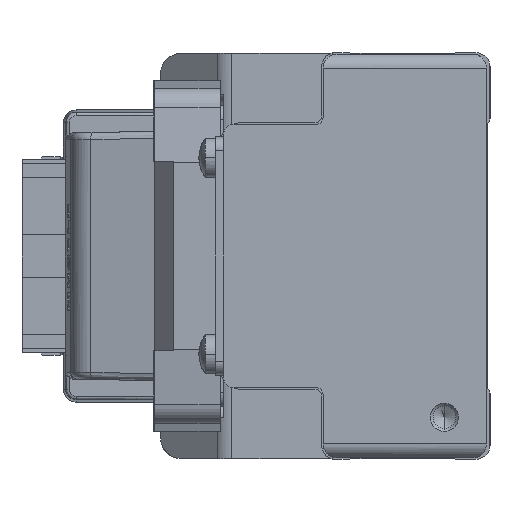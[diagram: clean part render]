
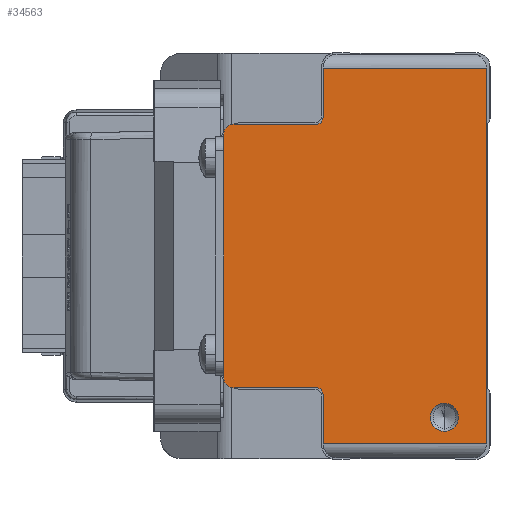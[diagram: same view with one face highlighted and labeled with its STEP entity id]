
A CAD part, left-side view. The second image highlights one B-rep face of the part: STEP entity #34563.
In plain terms, the highlighted planar face has unit normal (-1, 0, 0) as drawn and (0, 0, 1) by its records, which use the part's own axes.
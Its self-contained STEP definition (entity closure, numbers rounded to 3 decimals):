
#58 = CARTESIAN_POINT ( 'NONE',  ( -26.8, 0.5, 420. ) ) ;
#202 = CARTESIAN_POINT ( 'NONE',  ( -19.8, 23.8, 420. ) ) ;
#252 = LINE ( 'NONE', #443, #1602 ) ;
#443 = CARTESIAN_POINT ( 'NONE',  ( -19.8, 23.8, 420. ) ) ;
#474 = EDGE_CURVE ( 'NONE', #18160, #16892, #25079, .T. ) ;
#512 = VERTEX_POINT ( 'NONE', #9333 ) ;
#804 = DIRECTION ( 'NONE',  ( 0., 0., 1. ) ) ;
#1445 = DIRECTION ( 'NONE',  ( -1., 0., 0. ) ) ;
#1602 = VECTOR ( 'NONE', #20881, 1000. ) ;
#2162 = CARTESIAN_POINT ( 'NONE',  ( -21., 6.5, 420. ) ) ;
#2229 = VECTOR ( 'NONE', #41888, 1000. ) ;
#2465 = VECTOR ( 'NONE', #15988, 1000. ) ;
#2761 = CIRCLE ( 'NONE', #14101, 2. ) ;
#4384 = CARTESIAN_POINT ( 'NONE',  ( -25., 6.5, 420. ) ) ;
#4421 = VERTEX_POINT ( 'NONE', #24065 ) ;
#4689 = DIRECTION ( 'NONE',  ( 0., 0., 1. ) ) ;
#5040 = DIRECTION ( 'NONE',  ( 1., 0., 0. ) ) ;
#5096 = CARTESIAN_POINT ( 'NONE',  ( -26.8, 0.5, 420. ) ) ;
#5496 = DIRECTION ( 'NONE',  ( 0., 0., 1. ) ) ;
#6170 = ORIENTED_EDGE ( 'NONE', *, *, #19831, .T. ) ;
#6767 = CARTESIAN_POINT ( 'NONE',  ( 17.3, 36.5, 420. ) ) ;
#7025 = PLANE ( 'NONE',  #19929 ) ;
#7356 = EDGE_CURVE ( 'NONE', #21046, #24382, #17207, .T. ) ;
#7987 = EDGE_LOOP ( 'NONE', ( #20075, #43178, #40343, #25486, #23952, #19551, #6170, #34264, #17262, #34793, #23073, #29484 ) ) ;
#8158 = EDGE_CURVE ( 'NONE', #8332, #37024, #27337, .T. ) ;
#8245 = DIRECTION ( 'NONE',  ( 1., 0., 0. ) ) ;
#8252 = CIRCLE ( 'NONE', #28805, 1. ) ;
#8332 = VERTEX_POINT ( 'NONE', #15587 ) ;
#8461 = AXIS2_PLACEMENT_3D ( 'NONE', #41327, #10759, #1445 ) ;
#9090 = DIRECTION ( 'NONE',  ( 1., 0., 0. ) ) ;
#9333 = CARTESIAN_POINT ( 'NONE',  ( 19.8, 23.8, 420. ) ) ;
#10759 = DIRECTION ( 'NONE',  ( 0., 0., -1. ) ) ;
#11814 = CARTESIAN_POINT ( 'NONE',  ( -19.8, 24.8, 420. ) ) ;
#12032 = CIRCLE ( 'NONE', #8461, 2. ) ;
#12908 = LINE ( 'NONE', #5096, #21633 ) ;
#13626 = VERTEX_POINT ( 'NONE', #42083 ) ;
#13693 = CARTESIAN_POINT ( 'NONE',  ( -23., 6.5, 420. ) ) ;
#13825 = AXIS2_PLACEMENT_3D ( 'NONE', #40575, #26431, #37255 ) ;
#14095 = EDGE_CURVE ( 'NONE', #28418, #25607, #2761, .T. ) ;
#14101 = AXIS2_PLACEMENT_3D ( 'NONE', #13693, #33826, #20784 ) ;
#14166 = CARTESIAN_POINT ( 'NONE',  ( 26.8, 24., 420. ) ) ;
#14386 = LINE ( 'NONE', #21250, #41733 ) ;
#14715 = CIRCLE ( 'NONE', #16836, 1. ) ;
#14803 = AXIS2_PLACEMENT_3D ( 'NONE', #6767, #33798, #20316 ) ;
#15587 = CARTESIAN_POINT ( 'NONE',  ( 18.8, 24.8, 420. ) ) ;
#15988 = DIRECTION ( 'NONE',  ( 0., -1., 0. ) ) ;
#16126 = VECTOR ( 'NONE', #34282, 1000. ) ;
#16836 = AXIS2_PLACEMENT_3D ( 'NONE', #28552, #5496, #5040 ) ;
#16892 = VERTEX_POINT ( 'NONE', #30044 ) ;
#17207 = LINE ( 'NONE', #40638, #2229 ) ;
#17262 = ORIENTED_EDGE ( 'NONE', *, *, #8158, .T. ) ;
#17274 = EDGE_LOOP ( 'NONE', ( #31176, #41928 ) ) ;
#17681 = DIRECTION ( 'NONE',  ( 1., 0., 0. ) ) ;
#18160 = VERTEX_POINT ( 'NONE', #27341 ) ;
#18398 = CARTESIAN_POINT ( 'NONE',  ( -26.8, 23.8, 420. ) ) ;
#18796 = CIRCLE ( 'NONE', #13825, 1.5 ) ;
#18898 = VERTEX_POINT ( 'NONE', #202 ) ;
#19551 = ORIENTED_EDGE ( 'NONE', *, *, #41802, .F. ) ;
#19624 = CARTESIAN_POINT ( 'NONE',  ( -18.8, 24.8, 420. ) ) ;
#19831 = EDGE_CURVE ( 'NONE', #13626, #512, #14386, .T. ) ;
#19929 = AXIS2_PLACEMENT_3D ( 'NONE', #21005, #804, #17681 ) ;
#20075 = ORIENTED_EDGE ( 'NONE', *, *, #36984, .T. ) ;
#20316 = DIRECTION ( 'NONE',  ( 1., 0., 0. ) ) ;
#20784 = DIRECTION ( 'NONE',  ( -1., 0., 0. ) ) ;
#20838 = CARTESIAN_POINT ( 'NONE',  ( 18.8, 36.5, 420. ) ) ;
#20881 = DIRECTION ( 'NONE',  ( -1., 0., 0. ) ) ;
#21005 = CARTESIAN_POINT ( 'NONE',  ( -26.8, 21.8, 420. ) ) ;
#21046 = VERTEX_POINT ( 'NONE', #18398 ) ;
#21250 = CARTESIAN_POINT ( 'NONE',  ( 26.8, 23.8, 420. ) ) ;
#21633 = VECTOR ( 'NONE', #9090, 1000. ) ;
#22969 = EDGE_CURVE ( 'NONE', #24382, #4421, #12908, .T. ) ;
#23073 = ORIENTED_EDGE ( 'NONE', *, *, #474, .T. ) ;
#23541 = VECTOR ( 'NONE', #24654, 1000. ) ;
#23952 = ORIENTED_EDGE ( 'NONE', *, *, #22969, .T. ) ;
#24065 = CARTESIAN_POINT ( 'NONE',  ( 26.8, 0.5, 420. ) ) ;
#24182 = EDGE_CURVE ( 'NONE', #18898, #28747, #8252, .T. ) ;
#24382 = VERTEX_POINT ( 'NONE', #58 ) ;
#24572 = EDGE_CURVE ( 'NONE', #8332, #512, #14715, .T. ) ;
#24644 = CARTESIAN_POINT ( 'NONE',  ( 17.3, 38., 420. ) ) ;
#24654 = DIRECTION ( 'NONE',  ( 0., 1., 0. ) ) ;
#25079 = LINE ( 'NONE', #24644, #29874 ) ;
#25486 = ORIENTED_EDGE ( 'NONE', *, *, #7356, .T. ) ;
#25607 = VERTEX_POINT ( 'NONE', #4384 ) ;
#26431 = DIRECTION ( 'NONE',  ( 0., 0., 1. ) ) ;
#27119 = EDGE_CURVE ( 'NONE', #37024, #18160, #28225, .T. ) ;
#27337 = LINE ( 'NONE', #37519, #23541 ) ;
#27341 = CARTESIAN_POINT ( 'NONE',  ( 17.3, 38., 420. ) ) ;
#28225 = CIRCLE ( 'NONE', #14803, 1.5 ) ;
#28418 = VERTEX_POINT ( 'NONE', #2162 ) ;
#28552 = CARTESIAN_POINT ( 'NONE',  ( 19.8, 24.8, 420. ) ) ;
#28747 = VERTEX_POINT ( 'NONE', #19624 ) ;
#28805 = AXIS2_PLACEMENT_3D ( 'NONE', #11814, #4689, #8245 ) ;
#29484 = ORIENTED_EDGE ( 'NONE', *, *, #31225, .T. ) ;
#29874 = VECTOR ( 'NONE', #38168, 1000. ) ;
#30007 = EDGE_CURVE ( 'NONE', #18898, #21046, #252, .T. ) ;
#30044 = CARTESIAN_POINT ( 'NONE',  ( -17.3, 38., 420. ) ) ;
#30730 = FACE_BOUND ( 'NONE', #17274, .T. ) ;
#31176 = ORIENTED_EDGE ( 'NONE', *, *, #42962, .T. ) ;
#31225 = EDGE_CURVE ( 'NONE', #16892, #36107, #18796, .T. ) ;
#33798 = DIRECTION ( 'NONE',  ( 0., 0., 1. ) ) ;
#33826 = DIRECTION ( 'NONE',  ( 0., 0., -1. ) ) ;
#34264 = ORIENTED_EDGE ( 'NONE', *, *, #24572, .F. ) ;
#34282 = DIRECTION ( 'NONE',  ( 0., -1., 0. ) ) ;
#34563 = ADVANCED_FACE ( 'NONE', ( #30730, #34721 ), #7025, .T. ) ;
#34721 = FACE_OUTER_BOUND ( 'NONE', #7987, .T. ) ;
#34756 = DIRECTION ( 'NONE',  ( -1., 0., 0. ) ) ;
#34793 = ORIENTED_EDGE ( 'NONE', *, *, #27119, .T. ) ;
#36107 = VERTEX_POINT ( 'NONE', #37865 ) ;
#36351 = CARTESIAN_POINT ( 'NONE',  ( -18.8, 36.5, 420. ) ) ;
#36555 = LINE ( 'NONE', #36351, #2465 ) ;
#36984 = EDGE_CURVE ( 'NONE', #36107, #28747, #36555, .T. ) ;
#37024 = VERTEX_POINT ( 'NONE', #20838 ) ;
#37255 = DIRECTION ( 'NONE',  ( 1., 0., 0. ) ) ;
#37519 = CARTESIAN_POINT ( 'NONE',  ( 18.8, 24.8, 420. ) ) ;
#37865 = CARTESIAN_POINT ( 'NONE',  ( -18.8, 36.5, 420. ) ) ;
#38168 = DIRECTION ( 'NONE',  ( -1., 0., 0. ) ) ;
#40343 = ORIENTED_EDGE ( 'NONE', *, *, #30007, .T. ) ;
#40575 = CARTESIAN_POINT ( 'NONE',  ( -17.3, 36.5, 420. ) ) ;
#40638 = CARTESIAN_POINT ( 'NONE',  ( -26.8, 24., 420. ) ) ;
#41327 = CARTESIAN_POINT ( 'NONE',  ( -23., 6.5, 420. ) ) ;
#41733 = VECTOR ( 'NONE', #34756, 1000. ) ;
#41799 = LINE ( 'NONE', #14166, #16126 ) ;
#41802 = EDGE_CURVE ( 'NONE', #13626, #4421, #41799, .T. ) ;
#41888 = DIRECTION ( 'NONE',  ( 0., -1., 0. ) ) ;
#41928 = ORIENTED_EDGE ( 'NONE', *, *, #14095, .T. ) ;
#42083 = CARTESIAN_POINT ( 'NONE',  ( 26.8, 23.8, 420. ) ) ;
#42962 = EDGE_CURVE ( 'NONE', #25607, #28418, #12032, .T. ) ;
#43178 = ORIENTED_EDGE ( 'NONE', *, *, #24182, .F. ) ;
